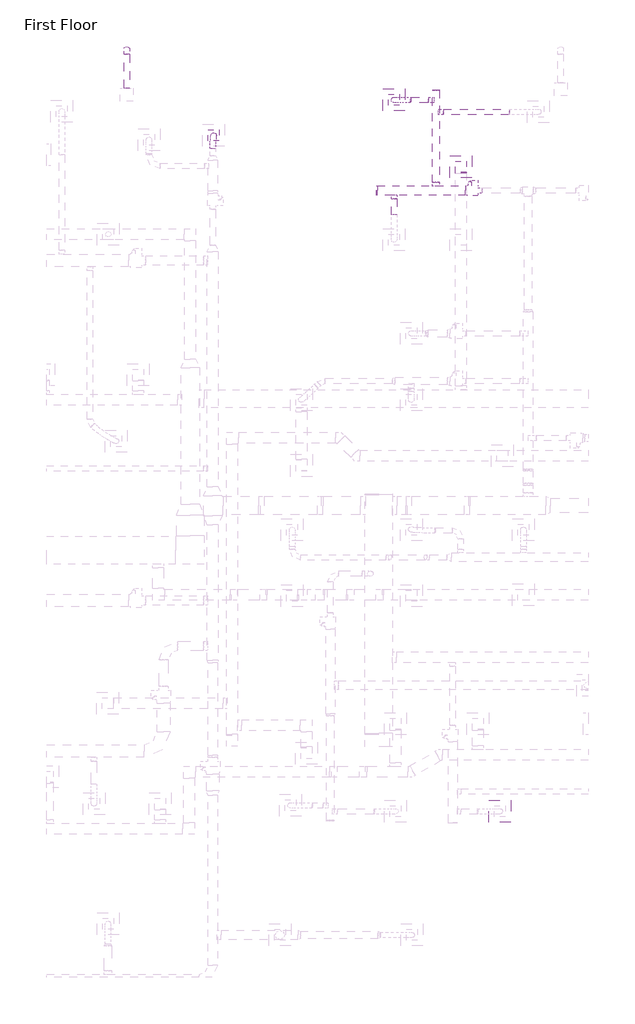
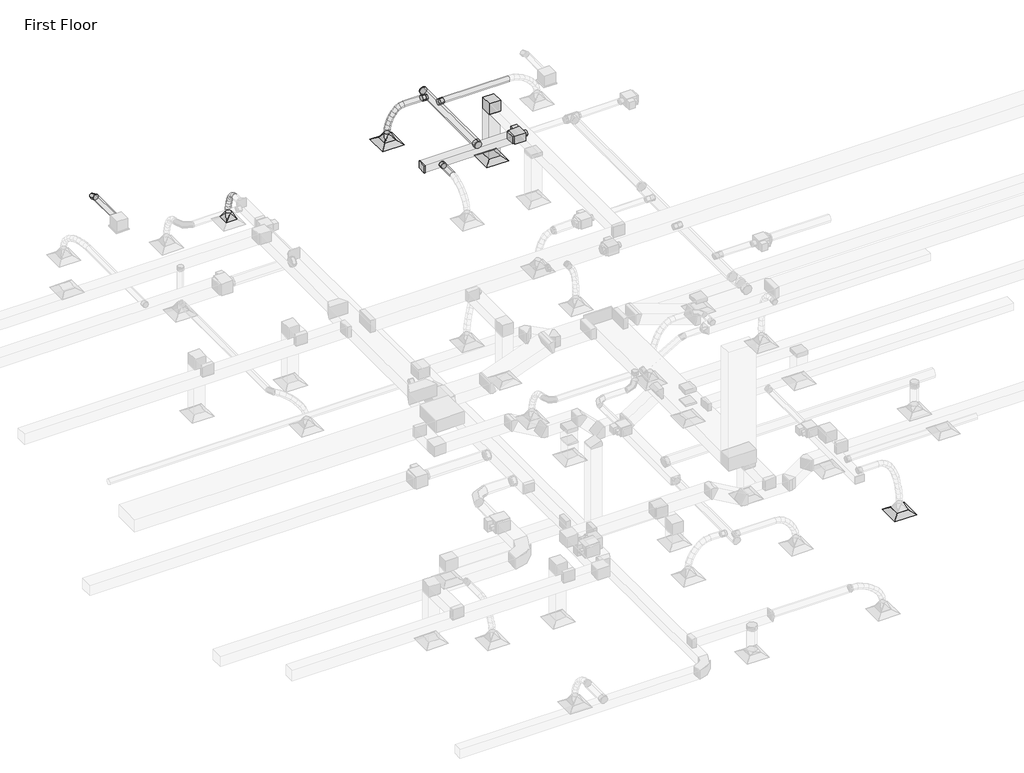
# One storey, part 46 of 61: 10 duct fittings, 9 duct segments, 3 air terminals, 1 proxy.
"""IFC4 building model written with IfcOpenShell, lengths in millimetres."""

from ifc_helpers import new_model, si_unit, point, frame, frame_2d, origin, place, context, project, spatial, polyline, circle_curve, ellipse_curve, trimmed, segment, composite_curve, outline, extrude, transform, mapped, element, save
from ifc_brep_helpers import plane_surface, cylinder_surface, advanced_brep
from components import m_exhaust_grill_er_600_x_600_face_300_x_300_connection_ff221211, m_vav_unit_single_duct_150_mm_ffdab17b, m_rectangular_elbow_mitered_standard_8eee5933, m_rectangular_endcap_standard_ecd4e432, m_rectangular_to_round_transition_angle_45_degree_8f201c83, m_round_elbow_1_5_d_fa134dda, m_round_endcap_standard_5afedfd2, m_round_takeoff_standard_2721f8a4, m_round_takeoff_standard_bf54a221, m_round_takeoff_standard_8efdd074, m_round_takeoff_standard_e1559ea3

model = new_model("IFC4")

# Units and contexts
model_context = context("Model", 3, world=origin())
ifc_project = project(units=[si_unit("LENGTHUNIT", "METRE", prefix="MILLI")], contexts=[model_context])

# Site, building, storey
site = spatial("IfcSite", under=ifc_project)
building = spatial("IfcBuilding", under=site)
storey = spatial("IfcBuildingStorey", under=building, Name="First Floor", Elevation=0.0)

# Air terminals
placement = place(None, origin())
m_exhaust_grill_er_600_x_600_face_300_x_300_connection_shape = m_exhaust_grill_er_600_x_600_face_300_x_300_connection_ff221211(model_context)
element("IfcAirTerminal", 1, ObjectType="M_Return Register : RR-600 x 600 Face 300 x 300 Connection", at=placement, inside=storey, context=model_context, shape_type="MappedRepresentation", body=[
    mapped(m_exhaust_grill_er_600_x_600_face_300_x_300_connection_shape, transform((-32756.4805906, 53537.642219, 2680.0), x_axis=(1.0, 0.0, 0.0), y_axis=(0.0, 1.0, 0.0), z_axis=(0.0, 0.0, 1.0))),
])
element("IfcAirTerminal", 2, ObjectType="M_Supply Diffuser : SD-600 x 600 Face 300 x 300 Connection", at=placement, inside=storey, context=model_context, shape_type="MappedRepresentation", body=[
    mapped(m_exhaust_grill_er_600_x_600_face_300_x_300_connection_shape, transform((-34574.8846187, 55356.0462471, 2680.0), x_axis=(1.0, 0.0, 0.0), y_axis=(0.0, 1.0, 0.0), z_axis=(0.0, 0.0, 1.0))),
])
element("IfcAirTerminal", 3, ObjectType="M_Supply Diffuser : SD-600 x 600 Face 300 x 300 Connection", at=placement, inside=storey, context=model_context, shape_type="MappedRepresentation", body=[
    mapped(m_exhaust_grill_er_600_x_600_face_300_x_300_connection_shape, transform((-31688.8067764, 35969.7483346, 2680.0), x_axis=(1.0, 0.0, 0.0), y_axis=(0.0, 1.0, 0.0), z_axis=(0.0, 0.0, 1.0))),
])

# Proxy
m_vav_unit_single_duct_150_mm_shape = m_vav_unit_single_duct_150_mm_ffdab17b(model_context)
element("IfcBuildingElementProxy", 4, Name="M_VAV Unit - Single Duct : 150 mm", ObjectType="M_VAV Unit - Single Duct : 150 mm", at=placement, inside=storey, context=model_context, shape_type="MappedRepresentation", body=[
    mapped(m_vav_unit_single_duct_150_mm_shape, transform((-32282.2775238, 52887.094047, 3500.05), x_axis=(-1.0000000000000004, 0.0, 0.0), y_axis=(0.0, -1.0000000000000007, 0.0), z_axis=(0.0, 0.0, 1.0000000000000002))),
])

# Duct fittings
m_rectangular_elbow_mitered_standard_shape = m_rectangular_elbow_mitered_standard_8eee5933(model_context)
element("IfcDuctFitting", 5, ObjectType="M_Rectangular Elbow - Mitered : Standard", at=placement, inside=storey, context=model_context, shape_type="MappedRepresentation", body=[
    mapped(m_rectangular_elbow_mitered_standard_shape, transform((-32756.4805906, 53537.642219, 4259.5), x_axis=(0.0, 0.0, 1.0), y_axis=(0.0, -1.0, 0.0), z_axis=(1.0, 0.0, 0.0))),
])
m_rectangular_endcap_standard_shape = m_rectangular_endcap_standard_ecd4e432(model_context)
element("IfcDuctFitting", 6, ObjectType="M_Rectangular Endcap : Standard", at=placement, inside=storey, context=model_context, shape_type="MappedRepresentation", body=[
    mapped(m_rectangular_endcap_standard_shape, transform((-35025.0775238, 52887.094047, 3619.1), x_axis=(-1.0, 0.0, 0.0), y_axis=(0.0, -1.0, 0.0), z_axis=(0.0, 0.0, 1.0))),
])
m_rectangular_to_round_transition_angle_45_degree_shape = m_rectangular_to_round_transition_angle_45_degree_8f201c83(model_context)
element("IfcDuctFitting", 7, ObjectType="M_Rectangular to Round Transition - Angle : 45 Degree", at=placement, inside=storey, context=model_context, shape_type="MappedRepresentation", body=[
    mapped(m_rectangular_to_round_transition_angle_45_degree_shape, transform((-34574.8846187, 55356.0462471, 2781.6), x_axis=(0.0, 0.0, 1.0), y_axis=(1.0, 0.0, 0.0), z_axis=(0.0, 1.0, 0.0))),
])
element("IfcDuctFitting", 8, ObjectType="M_Rectangular to Round Transition - Angle : 45 Degree", at=placement, inside=storey, context=model_context, shape_type="MappedRepresentation", body=[
    mapped(m_rectangular_to_round_transition_angle_45_degree_shape, transform((-39494.4029454, 54390.0357448, 2781.6), x_axis=(0.0, 0.0, 1.0), y_axis=(1.0, 0.0, 0.0), z_axis=(0.0, 1.0, 0.0))),
])
m_round_elbow_1_5_d_shape = m_round_elbow_1_5_d_fa134dda(model_context)
element("IfcDuctFitting", 9, ObjectType="M_Round Elbow : 1.5 D", at=placement, inside=storey, context=model_context, shape_type="MappedRepresentation", body=[
    mapped(m_round_elbow_1_5_d_shape, transform((-41867.0563016, 56690.1436321, 2879.6), x_axis=(0.0, 1.0, 0.0), y_axis=(0.0, 0.0, -1.0), z_axis=(-1.0, 0.0, 0.0))),
])
m_round_endcap_standard_shape = m_round_endcap_standard_5afedfd2(model_context)
element("IfcDuctFitting", 10, ObjectType="M_Round Endcap : Standard", at=placement, inside=storey, context=model_context, shape_type="MappedRepresentation", body=[
    mapped(m_round_endcap_standard_shape, transform((-33432.0242908, 55612.094047, 3619.1), x_axis=(0.0, 1.0, 0.0), y_axis=(-1.0, 0.0, 0.0), z_axis=(0.0, 0.0, 1.0))),
])
m_round_takeoff_standard_shape = m_round_takeoff_standard_2721f8a4(model_context)
element("IfcDuctFitting", 11, ObjectType="M_Round Takeoff : Standard", at=placement, inside=storey, context=model_context, shape_type="MappedRepresentation", body=[
    mapped(m_round_takeoff_standard_shape, transform((-34574.8846187, 52762.094047, 3619.1), x_axis=(0.0, -1.0, 0.0), y_axis=(-1.0, 0.0, 0.0), z_axis=(0.0, 0.0, -1.0))),
])
m_round_takeoff_standard_2_shape = m_round_takeoff_standard_bf54a221(model_context)
element("IfcDuctFitting", 12, ObjectType="M_Round Takeoff : Standard", at=placement, inside=storey, context=model_context, shape_type="MappedRepresentation", body=[
    mapped(m_round_takeoff_standard_2_shape, transform((-33532.0242908, 55356.0462471, 3619.1), x_axis=(-1.0, 0.0, 0.0), y_axis=(0.0, 1.0, 0.0), z_axis=(0.0, 0.0, -1.0))),
])
m_round_takeoff_standard_3_shape = m_round_takeoff_standard_8efdd074(model_context)
element("IfcDuctFitting", 13, ObjectType="M_Round Takeoff : Standard", at=placement, inside=storey, context=model_context, shape_type="MappedRepresentation", body=[
    mapped(m_round_takeoff_standard_3_shape, transform((-33432.0242908, 53012.094047, 3619.1), x_axis=(0.0, 1.0, 0.0), y_axis=(1.0, 0.0, 0.0), z_axis=(0.0, 0.0, -1.0))),
])
m_round_takeoff_standard_4_shape = m_round_takeoff_standard_e1559ea3(model_context)
element("IfcDuctFitting", 14, ObjectType="M_Round Takeoff : Standard", at=placement, inside=storey, context=model_context, shape_type="MappedRepresentation", body=[
    mapped(m_round_takeoff_standard_4_shape, transform((-33332.0242908, 55029.321854, 3619.1), x_axis=(1.0, 0.0, 0.0), y_axis=(0.0, -1.0, 0.0), z_axis=(0.0, 0.0, -1.0))),
])

# Duct segments
element("IfcDuctSegment", 15, ObjectType="Flex - Round", at=placement, inside=storey, context=model_context, shape_type="AdvancedBrep", body=[
    advanced_brep(
    [(-34132.0242908, 55281.0462471, 3619.1), (-34118.5013221, 55356.0462471, 3545.329211), (-34132.0242908, 55431.0462471, 3619.1), (-34145.5472595, 55356.0462471, 3692.870789), (-34226.8362322, 55281.0462471, 3601.7199647), (-34201.0413554, 55356.0462471, 3530.1987467), (-34226.8362322, 55431.0462471, 3601.7199647), (-34252.631109, 55356.0462471, 3673.2411827), (-34574.8846187, 55281.0462471, 2962.6660172), (-34649.6523526, 55356.0462471, 2968.5639802), (-34574.8846187, 55431.0462471, 2962.6660172), (-34500.1168848, 55356.0462471, 2956.7680542), (-34312.5755159, 55281.0462471, 3553.6502898), (-34267.5192064, 55356.0462471, 3492.9279817), (-34312.5755159, 55431.0462471, 3553.6502898), (-34357.6318253, 55356.0462471, 3614.3725979), (-34388.1421277, 55281.0462471, 3480.9966219), (-34330.9923187, 55356.0462471, 3431.9016328), (-34388.1421277, 55431.0462471, 3480.9966219), (-34445.2919367, 55356.0462471, 3530.091611), (-34452.4360537, 55281.0462471, 3389.8646076), (-34387.9155305, 55356.0462471, 3351.2170756), (-34452.4360537, 55431.0462471, 3389.8646076), (-34516.9565769, 55356.0462471, 3428.5121395), (-34504.3572798, 55281.0462471, 3286.3598933), (-34435.1630913, 55356.0462471, 3257.0292906), (-34504.3572798, 55431.0462471, 3286.3598933), (-34573.5514683, 55356.0462471, 3315.6904961), (-34542.8057921, 55281.0462471, 3176.5881258), (-34470.4949337, 55356.0462471, 3156.1557182), (-34542.8057921, 55431.0462471, 3176.5881258), (-34615.1166505, 55356.0462471, 3197.0205335), (-34566.6815764, 55281.0462471, 3066.6549516), (-34492.3129827, 55356.0462471, 3055.6971383), (-34566.6815764, 55431.0462471, 3066.6549516), (-34641.05017, 55356.0462471, 3077.6127648)],
    [
        (0, 1, circle_curve(frame((-34132.0242908, 55356.0462471, 3619.1), z_axis=(0.983610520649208, 0.0, 0.18030624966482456), x_axis=(0.0, -1.0, 0.0)), 75.0)),
        (1, 2, circle_curve(frame((-34132.0242908, 55356.0462471, 3619.1), z_axis=(0.983610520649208, 0.0, 0.18030624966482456), x_axis=(0.0, -1.0, 0.0)), 75.0)),
        (2, 3, circle_curve(frame((-34132.0242908, 55356.0462471, 3619.1), z_axis=(0.983610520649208, 0.0, 0.18030624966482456), x_axis=(0.0, -1.0, 0.0)), 75.0)),
        (3, 0, circle_curve(frame((-34132.0242908, 55356.0462471, 3619.1), z_axis=(0.983610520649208, 0.0, 0.18030624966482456), x_axis=(0.0, -1.0, 0.0)), 75.0)),
        (0, 4),
        (4, 5, ellipse_curve(frame((-34226.8362322, 55356.0462471, 3601.7199647), z_axis=(0.9406892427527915, 0.0, 0.33926943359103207), x_axis=(0.33926943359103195, 0.0, -0.9406892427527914)), 76.0306537, 75.0)),
        (5, 1),
        (5, 6, ellipse_curve(frame((-34226.8362322, 55356.0462471, 3601.7199647), z_axis=(0.9406892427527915, 0.0, 0.33926943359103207), x_axis=(0.33926943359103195, 0.0, -0.9406892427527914)), 76.0306537, 75.0)),
        (6, 2),
        (6, 7, ellipse_curve(frame((-34226.8362322, 55356.0462471, 3601.7199647), z_axis=(0.9406892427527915, 0.0, 0.33926943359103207), x_axis=(0.33926943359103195, 0.0, -0.9406892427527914)), 76.0306537, 75.0)),
        (7, 3),
        (7, 4, ellipse_curve(frame((-34226.8362322, 55356.0462471, 3601.7199647), z_axis=(0.9406892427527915, 0.0, 0.33926943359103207), x_axis=(0.33926943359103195, 0.0, -0.9406892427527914)), 76.0306537, 75.0)),
        (8, 9, circle_curve(frame((-34574.8846187, 55356.0462471, 2962.6660172), z_axis=(-0.07863950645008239, 0.0, -0.9969031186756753), x_axis=(0.0, -1.0, 0.0)), 75.0)),
        (9, 10, circle_curve(frame((-34574.8846187, 55356.0462471, 2962.6660172), z_axis=(-0.07863950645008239, 0.0, -0.9969031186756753), x_axis=(0.0, -1.0, 0.0)), 75.0)),
        (10, 11, circle_curve(frame((-34574.8846187, 55356.0462471, 2962.6660172), z_axis=(-0.07863950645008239, 0.0, -0.9969031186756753), x_axis=(0.0, -1.0, 0.0)), 75.0)),
        (11, 8, circle_curve(frame((-34574.8846187, 55356.0462471, 2962.6660172), z_axis=(-0.07863950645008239, 0.0, -0.9969031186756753), x_axis=(0.0, -1.0, 0.0)), 75.0)),
        (4, 12),
        (12, 13, ellipse_curve(frame((-34312.5755159, 55356.0462471, 3553.6502898), z_axis=(0.8030709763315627, 0.0, 0.595883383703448), x_axis=(0.5958833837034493, 0.0, -0.8030709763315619)), 75.6126293, 75.0)),
        (13, 5),
        (13, 14, ellipse_curve(frame((-34312.5755159, 55356.0462471, 3553.6502898), z_axis=(0.8030709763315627, 0.0, 0.595883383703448), x_axis=(0.5958833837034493, 0.0, -0.8030709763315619)), 75.6126293, 75.0)),
        (14, 6),
        (14, 15, ellipse_curve(frame((-34312.5755159, 55356.0462471, 3553.6502898), z_axis=(0.8030709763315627, 0.0, 0.595883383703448), x_axis=(0.5958833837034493, 0.0, -0.8030709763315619)), 75.6126293, 75.0)),
        (15, 7),
        (15, 12, ellipse_curve(frame((-34312.5755159, 55356.0462471, 3553.6502898), z_axis=(0.8030709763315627, 0.0, 0.595883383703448), x_axis=(0.5958833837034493, 0.0, -0.8030709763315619)), 75.6126293, 75.0)),
        (12, 16),
        (16, 17, ellipse_curve(frame((-34388.1421277, 55356.0462471, 3480.9966219), z_axis=(0.6516283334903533, 0.0, 0.758538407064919), x_axis=(0.7585384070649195, 0.0, -0.6516283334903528)), 75.342011, 75.0)),
        (17, 13),
        (17, 18, ellipse_curve(frame((-34388.1421277, 55356.0462471, 3480.9966219), z_axis=(0.6516283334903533, 0.0, 0.758538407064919), x_axis=(0.7585384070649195, 0.0, -0.6516283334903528)), 75.342011, 75.0)),
        (18, 14),
        (18, 19, ellipse_curve(frame((-34388.1421277, 55356.0462471, 3480.9966219), z_axis=(0.6516283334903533, 0.0, 0.758538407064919), x_axis=(0.7585384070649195, 0.0, -0.6516283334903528)), 75.342011, 75.0)),
        (19, 15),
        (19, 16, ellipse_curve(frame((-34388.1421277, 55356.0462471, 3480.9966219), z_axis=(0.6516283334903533, 0.0, 0.758538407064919), x_axis=(0.7585384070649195, 0.0, -0.6516283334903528)), 75.342011, 75.0)),
        (16, 20),
        (20, 21, ellipse_curve(frame((-34452.4360537, 55356.0462471, 3389.8646076), z_axis=(0.5138622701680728, 0.0, 0.8578726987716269), x_axis=(0.8578726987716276, 0.0, -0.5138622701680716)), 75.2099039, 75.0)),
        (21, 17),
        (21, 22, ellipse_curve(frame((-34452.4360537, 55356.0462471, 3389.8646076), z_axis=(0.5138622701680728, 0.0, 0.8578726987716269), x_axis=(0.8578726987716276, 0.0, -0.5138622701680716)), 75.2099039, 75.0)),
        (22, 18),
        (22, 23, ellipse_curve(frame((-34452.4360537, 55356.0462471, 3389.8646076), z_axis=(0.5138622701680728, 0.0, 0.8578726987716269), x_axis=(0.8578726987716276, 0.0, -0.5138622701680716)), 75.2099039, 75.0)),
        (23, 19),
        (23, 20, ellipse_curve(frame((-34452.4360537, 55356.0462471, 3389.8646076), z_axis=(0.5138622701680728, 0.0, 0.8578726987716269), x_axis=(0.8578726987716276, 0.0, -0.5138622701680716)), 75.2099039, 75.0)),
        (20, 24),
        (24, 25, ellipse_curve(frame((-34504.3572798, 55356.0462471, 3286.3598933), z_axis=(0.3902734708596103, 0.0, 0.9206989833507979), x_axis=(0.9206989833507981, 0.0, -0.3902734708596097)), 75.1539751, 75.0)),
        (25, 21),
        (25, 26, ellipse_curve(frame((-34504.3572798, 55356.0462471, 3286.3598933), z_axis=(0.3902734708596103, 0.0, 0.9206989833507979), x_axis=(0.9206989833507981, 0.0, -0.3902734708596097)), 75.1539751, 75.0)),
        (26, 22),
        (26, 27, ellipse_curve(frame((-34504.3572798, 55356.0462471, 3286.3598933), z_axis=(0.3902734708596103, 0.0, 0.9206989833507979), x_axis=(0.9206989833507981, 0.0, -0.3902734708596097)), 75.1539751, 75.0)),
        (27, 23),
        (27, 24, ellipse_curve(frame((-34504.3572798, 55356.0462471, 3286.3598933), z_axis=(0.3902734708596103, 0.0, 0.9206989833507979), x_axis=(0.9206989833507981, 0.0, -0.3902734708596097)), 75.1539751, 75.0)),
        (24, 28),
        (28, 29, ellipse_curve(frame((-34542.8057921, 55356.0462471, 3176.5881258), z_axis=(0.27191670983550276, 0.0, 0.9623207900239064), x_axis=(0.9623207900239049, 0.0, -0.2719167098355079)), 75.1421554, 75.0)),
        (29, 25),
        (29, 30, ellipse_curve(frame((-34542.8057921, 55356.0462471, 3176.5881258), z_axis=(0.27191670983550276, 0.0, 0.9623207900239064), x_axis=(0.9623207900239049, 0.0, -0.2719167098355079)), 75.1421554, 75.0)),
        (30, 26),
        (30, 31, ellipse_curve(frame((-34542.8057921, 55356.0462471, 3176.5881258), z_axis=(0.27191670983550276, 0.0, 0.9623207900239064), x_axis=(0.9623207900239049, 0.0, -0.2719167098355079)), 75.1421554, 75.0)),
        (31, 27),
        (31, 28, ellipse_curve(frame((-34542.8057921, 55356.0462471, 3176.5881258), z_axis=(0.27191670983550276, 0.0, 0.9623207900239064), x_axis=(0.9623207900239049, 0.0, -0.2719167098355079)), 75.1421554, 75.0)),
        (28, 32),
        (32, 33, ellipse_curve(frame((-34566.6815764, 55356.0462471, 3066.6549516), z_axis=(0.145770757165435, 0.0, 0.9893183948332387), x_axis=(0.9893183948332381, 1.1852443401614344e-12, -0.14577075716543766)), 75.1715465, 75.0)),
        (33, 29),
        (33, 34, ellipse_curve(frame((-34566.6815764, 55356.0462471, 3066.6549516), z_axis=(0.145770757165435, 0.0, 0.9893183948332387), x_axis=(0.9893183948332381, 1.1852443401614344e-12, -0.14577075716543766)), 75.1715465, 75.0)),
        (34, 30),
        (34, 35, ellipse_curve(frame((-34566.6815764, 55356.0462471, 3066.6549516), z_axis=(0.145770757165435, 0.0, 0.9893183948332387), x_axis=(0.9893183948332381, 1.1852443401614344e-12, -0.14577075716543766)), 75.1715465, 75.0)),
        (35, 31),
        (35, 32, ellipse_curve(frame((-34566.6815764, 55356.0462471, 3066.6549516), z_axis=(0.145770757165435, 0.0, 0.9893183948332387), x_axis=(0.9893183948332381, 1.1852443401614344e-12, -0.14577075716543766)), 75.1715465, 75.0)),
        (32, 8),
        (11, 33),
        (10, 34),
        (9, 35),
    ],
    [
        plane_surface(frame((-34132.0242908, 55431.0462471, 3619.1), z_axis=(0.9836105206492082, 0.0, 0.18030624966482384), x_axis=(0.18030624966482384, 0.0, -0.9836105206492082))),
        cylinder_surface(frame((-34132.0242908, 55356.0462471, 3619.1), z_axis=(0.983610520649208, 0.0, 0.18030624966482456), x_axis=(0.0, -1.0, 0.0)), 75.0),
        plane_surface(frame((-34574.8846187, 55431.0462471, 2962.6660172), z_axis=(-0.07863950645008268, 0.0, -0.9969031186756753), x_axis=(0.9969031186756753, 0.0, -0.07863950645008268))),
        cylinder_surface(frame((-34226.8362322, 55356.0462471, 3601.7199647), z_axis=(0.8722644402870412, 0.0, 0.4890345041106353), x_axis=(0.0, -1.0, 0.0)), 75.0),
        cylinder_surface(frame((-34312.5755159, 55356.0462471, 3553.6502898), z_axis=(0.7208642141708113, 0.0, 0.6930763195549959), x_axis=(0.0, -1.0, 0.0)), 75.0),
        cylinder_surface(frame((-34388.1421277, 55356.0462471, 3480.9966219), z_axis=(0.5764763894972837, 0.0, 0.8171138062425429), x_axis=(0.0, -1.0, 0.0)), 75.0),
        cylinder_surface(frame((-34452.4360537, 55356.0462471, 3389.8646076), z_axis=(0.44837986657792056, 0.0, 0.8938431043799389), x_axis=(0.0, -1.0, 0.0)), 75.0),
        cylinder_surface(frame((-34504.3572798, 55356.0462471, 3286.3598933), z_axis=(0.3305678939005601, 0.0, 0.9437822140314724), x_axis=(0.0, -1.0, 0.0)), 75.0),
        cylinder_surface(frame((-34542.8057921, 55356.0462471, 3176.5881258), z_axis=(0.2122366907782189, 0.0, 0.9772182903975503), x_axis=(0.0, -1.0, 0.0)), 75.0),
        cylinder_surface(frame((-34566.6815764, 55356.0462471, 3066.6549516), z_axis=(0.07863950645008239, 0.0, 0.9969031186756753), x_axis=(0.0, -1.0, 0.0)), 75.0),
    ],
    [
        (0, [[1, 2, 3, 4]]),
        (1, [[-1, 5, 6, 7]]),
        (1, [[-2, -7, 8, 9]]),
        (1, [[-3, -9, 10, 11]]),
        (1, [[-4, -11, 12, -5]]),
        (2, [[13, 14, 15, 16]]),
        (3, [[-6, 17, 18, 19]]),
        (3, [[-8, -19, 20, 21]]),
        (3, [[-10, -21, 22, 23]]),
        (3, [[-12, -23, 24, -17]]),
        (4, [[-18, 25, 26, 27]]),
        (4, [[-20, -27, 28, 29]]),
        (4, [[-22, -29, 30, 31]]),
        (4, [[-24, -31, 32, -25]]),
        (5, [[-26, 33, 34, 35]]),
        (5, [[-28, -35, 36, 37]]),
        (5, [[-30, -37, 38, 39]]),
        (5, [[-32, -39, 40, -33]]),
        (6, [[-34, 41, 42, 43]]),
        (6, [[-36, -43, 44, 45]]),
        (6, [[-38, -45, 46, 47]]),
        (6, [[-40, -47, 48, -41]]),
        (7, [[-42, 49, 50, 51]]),
        (7, [[-44, -51, 52, 53]]),
        (7, [[-46, -53, 54, 55]]),
        (7, [[-48, -55, 56, -49]]),
        (8, [[-50, 57, 58, 59]]),
        (8, [[-52, -59, 60, 61]]),
        (8, [[-54, -61, 62, 63]]),
        (8, [[-56, -63, 64, -57]]),
        (9, [[-58, 65, -16, 66]]),
        (9, [[-60, -66, -15, 67]]),
        (9, [[-62, -67, -14, 68]]),
        (9, [[-64, -68, -13, -65]]),
    ],
),
])
element("IfcDuctSegment", 16, ObjectType="Flex - Round", at=placement, inside=storey, context=model_context, shape_type="AdvancedBrep", body=[
    advanced_brep(
    [(-39591.764116, 54037.7635475, 3619.1), (-39516.9384247, 54021.650829, 3545.6731913), (-39441.7733644, 54036.0978866, 3619.1), (-39516.5990556, 54052.2106051, 3692.5268087), (-39590.7948874, 54125.0414164, 3600.93551), (-39516.137711, 54093.7541363, 3530.6668694), (-39440.8205325, 54121.8992491, 3601.2428043), (-39515.4777089, 54153.1865292, 3671.5114449), (-39569.3376667, 54393.1119838, 2962.0965517), (-39491.3591129, 54464.879041, 2966.4364416), (-39419.468224, 54386.9595059, 2963.2354827), (-39497.4467778, 54315.1924486, 2958.8955928), (-39588.2258117, 54199.5688535, 3550.6398474), (-39514.3399057, 54145.9074541, 3495.4706278), (-39438.3223578, 54194.3698876, 3552.3351949), (-39512.2082638, 54248.0312869, 3607.5044145), (-39584.61636, 54260.9567607, 3475.5229104), (-39511.448564, 54195.0820745, 3435.2984044), (-39434.7677658, 54254.8247674, 3478.359951), (-39507.9355618, 54320.6994535, 3518.584457), (-39580.4971512, 54309.9178279, 3382.385021), (-39507.8471145, 54237.8890346, 3353.867379), (-39430.6745344, 54303.4770658, 3385.809428), (-39503.324571, 54375.5058591, 3414.32707), (-39576.3898785, 54347.0822573, 3277.8622534), (-39504.0897714, 54271.8871458, 3258.2496947), (-39426.5693667, 54340.6224481, 3281.3402292), (-39498.8694738, 54415.8175596, 3300.9527879), (-39572.8155762, 54372.9923613, 3168.5968144), (-39500.7483817, 54296.1088676, 3156.1043285), (-39422.9796254, 54366.644469, 3171.6028255), (-39495.04682, 54443.5279628, 3184.0953114), (-39570.2950823, 54388.1535273, 3061.295314), (-39498.374935, 54310.3855213, 3055.0628677), (-39420.4328689, 54381.9636087, 3063.1832839), (-39492.3530162, 54459.7316147, 3069.4157302)],
    [
        (0, 1, circle_curve(frame((-39516.7687402, 54036.930717, 3619.1), z_axis=(-0.010871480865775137, -0.9789637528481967, 0.2037444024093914), x_axis=(-0.9999383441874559, 0.01110440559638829, 0.0)), 75.0)),
        (1, 2, circle_curve(frame((-39516.7687402, 54036.930717, 3619.1), z_axis=(-0.010871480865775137, -0.9789637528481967, 0.2037444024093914), x_axis=(-0.9999383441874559, 0.01110440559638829, 0.0)), 75.0)),
        (2, 3, circle_curve(frame((-39516.7687402, 54036.930717, 3619.1), z_axis=(-0.010871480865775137, -0.9789637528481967, 0.2037444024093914), x_axis=(-0.9999383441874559, 0.01110440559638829, 0.0)), 75.0)),
        (3, 0, circle_curve(frame((-39516.7687402, 54036.930717, 3619.1), z_axis=(-0.010871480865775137, -0.9789637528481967, 0.2037444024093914), x_axis=(-0.9999383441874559, 0.01110440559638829, 0.0)), 75.0)),
        (0, 4),
        (4, 5, ellipse_curve(frame((-39515.8077099, 54123.4703328, 3601.0891572), z_axis=(-0.02009516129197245, -0.9211125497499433, 0.3887773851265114), x_axis=(0.04578991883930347, -0.3892957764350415, -0.9199739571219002)), 76.4397053, 75.0)),
        (5, 1),
        (5, 6, ellipse_curve(frame((-39515.8077099, 54123.4703328, 3601.0891572), z_axis=(-0.02009516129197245, -0.9211125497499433, 0.3887773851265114), x_axis=(0.04578991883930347, -0.3892957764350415, -0.9199739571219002)), 76.4397053, 75.0)),
        (6, 2),
        (6, 7, ellipse_curve(frame((-39515.8077099, 54123.4703328, 3601.0891572), z_axis=(-0.02009516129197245, -0.9211125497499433, 0.3887773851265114), x_axis=(0.04578991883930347, -0.3892957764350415, -0.9199739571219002)), 76.4397053, 75.0)),
        (7, 3),
        (7, 4, ellipse_curve(frame((-39515.8077099, 54123.4703328, 3601.0891572), z_axis=(-0.02009516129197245, -0.9211125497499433, 0.3887773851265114), x_axis=(0.04578991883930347, -0.3892957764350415, -0.9199739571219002)), 76.4397053, 75.0)),
        (8, 9, circle_curve(frame((-39494.4029454, 54390.0357448, 2962.6660172), z_axis=(0.009639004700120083, 0.0499204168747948, -0.9987066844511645), x_axis=(-0.9991296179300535, 0.04101651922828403, -0.007592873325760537)), 75.0)),
        (9, 10, circle_curve(frame((-39494.4029454, 54390.0357448, 2962.6660172), z_axis=(0.009639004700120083, 0.0499204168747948, -0.9987066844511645), x_axis=(-0.9991296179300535, 0.04101651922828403, -0.007592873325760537)), 75.0)),
        (10, 11, circle_curve(frame((-39494.4029454, 54390.0357448, 2962.6660172), z_axis=(0.009639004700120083, 0.0499204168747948, -0.9987066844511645), x_axis=(-0.9991296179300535, 0.04101651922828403, -0.007592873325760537)), 75.0)),
        (11, 8, circle_curve(frame((-39494.4029454, 54390.0357448, 2962.6660172), z_axis=(0.009639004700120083, 0.0499204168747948, -0.9987066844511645), x_axis=(-0.9991296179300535, 0.04101651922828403, -0.007592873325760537)), 75.0)),
        (4, 12),
        (12, 13, ellipse_curve(frame((-39513.2740847, 54196.9693705, 3551.4875212), z_axis=(-0.03322485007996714, -0.7383138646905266, 0.6736384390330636), x_axis=(0.029628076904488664, -0.6744419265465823, -0.7377331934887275)), 75.8062323, 75.0)),
        (13, 5),
        (13, 14, ellipse_curve(frame((-39513.2740847, 54196.9693705, 3551.4875212), z_axis=(-0.03322485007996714, -0.7383138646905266, 0.6736384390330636), x_axis=(0.029628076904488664, -0.6744419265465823, -0.7377331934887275)), 75.8062323, 75.0)),
        (14, 6),
        (14, 15, ellipse_curve(frame((-39513.2740847, 54196.9693705, 3551.4875212), z_axis=(-0.03322485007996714, -0.7383138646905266, 0.6736384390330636), x_axis=(0.029628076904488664, -0.6744419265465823, -0.7377331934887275)), 75.8062323, 75.0)),
        (15, 7),
        (15, 12, ellipse_curve(frame((-39513.2740847, 54196.9693705, 3551.4875212), z_axis=(-0.03322485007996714, -0.7383138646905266, 0.6736384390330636), x_axis=(0.029628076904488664, -0.6744419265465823, -0.7377331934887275)), 75.8062323, 75.0)),
        (12, 16),
        (16, 17, ellipse_curve(frame((-39509.6920629, 54257.890764, 3476.9414307), z_axis=(-0.03834285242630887, -0.5514392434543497, 0.8333334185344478), x_axis=(0.009648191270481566, -0.8341120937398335, -0.5515105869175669)), 75.3805097, 75.0)),
        (17, 13),
        (17, 18, ellipse_curve(frame((-39509.6920629, 54257.890764, 3476.9414307), z_axis=(-0.03834285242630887, -0.5514392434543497, 0.8333334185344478), x_axis=(0.009648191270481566, -0.8341120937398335, -0.5515105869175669)), 75.3805097, 75.0)),
        (18, 14),
        (18, 19, ellipse_curve(frame((-39509.6920629, 54257.890764, 3476.9414307), z_axis=(-0.03834285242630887, -0.5514392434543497, 0.8333334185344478), x_axis=(0.009648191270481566, -0.8341120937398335, -0.5515105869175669)), 75.3805097, 75.0)),
        (19, 15),
        (19, 16, ellipse_curve(frame((-39509.6920629, 54257.890764, 3476.9414307), z_axis=(-0.03834285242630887, -0.5514392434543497, 0.8333334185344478), x_axis=(0.009648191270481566, -0.8341120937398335, -0.5515105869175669)), 75.3805097, 75.0)),
        (16, 20),
        (20, 21, ellipse_curve(frame((-39505.5858428, 54306.6974468, 3384.0972245), z_axis=(-0.0381549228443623, -0.4008831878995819, 0.9153342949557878), x_axis=(-0.014900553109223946, -0.9156712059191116, -0.40165185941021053)), 75.1901664, 75.0)),
        (21, 17),
        (21, 22, ellipse_curve(frame((-39505.5858428, 54306.6974468, 3384.0972245), z_axis=(-0.0381549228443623, -0.4008831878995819, 0.9153342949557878), x_axis=(-0.014900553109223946, -0.9156712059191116, -0.40165185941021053)), 75.1901664, 75.0)),
        (22, 18),
        (22, 23, ellipse_curve(frame((-39505.5858428, 54306.6974468, 3384.0972245), z_axis=(-0.0381549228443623, -0.4008831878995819, 0.9153342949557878), x_axis=(-0.014900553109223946, -0.9156712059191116, -0.40165185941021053)), 75.1901664, 75.0)),
        (23, 19),
        (23, 20, ellipse_curve(frame((-39505.5858428, 54306.6974468, 3384.0972245), z_axis=(-0.0381549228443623, -0.4008831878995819, 0.9153342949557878), x_axis=(-0.014900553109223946, -0.9156712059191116, -0.40165185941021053)), 75.1901664, 75.0)),
        (20, 24),
        (24, 25, ellipse_curve(frame((-39501.4796226, 54343.8523527, 3279.6012413), z_axis=(-0.03445736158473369, -0.2831198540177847, 0.958465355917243), x_axis=(-0.047666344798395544, -0.9574778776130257, -0.284541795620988)), 75.111219, 75.0)),
        (25, 21),
        (25, 26, ellipse_curve(frame((-39501.4796226, 54343.8523527, 3279.6012413), z_axis=(-0.03445736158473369, -0.2831198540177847, 0.958465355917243), x_axis=(-0.047666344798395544, -0.9574778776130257, -0.284541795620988)), 75.111219, 75.0)),
        (26, 22),
        (26, 27, ellipse_curve(frame((-39501.4796226, 54343.8523527, 3279.6012413), z_axis=(-0.03445736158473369, -0.2831198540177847, 0.958465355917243), x_axis=(-0.047666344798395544, -0.9574778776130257, -0.284541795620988)), 75.111219, 75.0)),
        (27, 23),
        (27, 24, ellipse_curve(frame((-39501.4796226, 54343.8523527, 3279.6012413), z_axis=(-0.03445736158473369, -0.2831198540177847, 0.958465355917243), x_axis=(-0.047666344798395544, -0.9574778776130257, -0.284541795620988)), 75.111219, 75.0)),
        (24, 28),
        (28, 29, ellipse_curve(frame((-39497.8976008, 54369.8184152, 3170.0998199), z_axis=(-0.02756260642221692, -0.18544083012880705, 0.9822688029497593), x_axis=(-0.09225932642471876, -0.9779760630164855, -0.18721922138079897)), 75.0808506, 75.0)),
        (29, 25),
        (29, 30, ellipse_curve(frame((-39497.8976008, 54369.8184152, 3170.0998199), z_axis=(-0.02756260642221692, -0.18544083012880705, 0.9822688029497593), x_axis=(-0.09225932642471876, -0.9779760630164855, -0.18721922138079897)), 75.0808506, 75.0)),
        (30, 26),
        (30, 31, ellipse_curve(frame((-39497.8976008, 54369.8184152, 3170.0998199), z_axis=(-0.02756260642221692, -0.18544083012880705, 0.9822688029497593), x_axis=(-0.09225932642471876, -0.9779760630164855, -0.18721922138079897)), 75.0808506, 75.0)),
        (31, 27),
        (31, 28, ellipse_curve(frame((-39497.8976008, 54369.8184152, 3170.0998199), z_axis=(-0.02756260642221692, -0.18544083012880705, 0.9822688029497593), x_axis=(-0.09225932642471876, -0.9779760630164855, -0.18721922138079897)), 75.0808506, 75.0)),
        (28, 32),
        (32, 33, ellipse_curve(frame((-39495.3639756, 54385.058568, 3062.2392989), z_axis=(-0.016462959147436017, -0.09499321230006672, 0.9953417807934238), x_axis=(-0.14894915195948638, -0.9841359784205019, -0.09638737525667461)), 75.0784362, 75.0)),
        (33, 29),
        (33, 34, ellipse_curve(frame((-39495.3639756, 54385.058568, 3062.2392989), z_axis=(-0.016462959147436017, -0.09499321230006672, 0.9953417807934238), x_axis=(-0.14894915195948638, -0.9841359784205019, -0.09638737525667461)), 75.0784362, 75.0)),
        (34, 30),
        (34, 35, ellipse_curve(frame((-39495.3639756, 54385.058568, 3062.2392989), z_axis=(-0.016462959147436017, -0.09499321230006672, 0.9953417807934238), x_axis=(-0.14894915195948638, -0.9841359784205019, -0.09638737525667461)), 75.0784362, 75.0)),
        (35, 31),
        (35, 32, ellipse_curve(frame((-39495.3639756, 54385.058568, 3062.2392989), z_axis=(-0.016462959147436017, -0.09499321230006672, 0.9953417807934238), x_axis=(-0.14894915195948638, -0.9841359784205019, -0.09638737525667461)), 75.0784362, 75.0)),
        (32, 8),
        (11, 33),
        (10, 34),
        (9, 35),
    ],
    [
        plane_surface(frame((-39516.7687402, 54052.2124503, 3692.5266207), z_axis=(-0.010871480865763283, -0.9789637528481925, 0.2037444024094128), x_axis=(0.9999409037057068, -0.01064341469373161, 0.0022151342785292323))),
        cylinder_surface(frame((-39516.7687402, 54036.930717, 3619.1), z_axis=(-0.010871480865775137, -0.9789637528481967, 0.2037444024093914), x_axis=(-0.9999383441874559, 0.01110440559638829, 0.0)), 75.0),
        plane_surface(frame((-39494.4029454, 54464.942226, 2966.4102224), z_axis=(0.009639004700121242, 0.04992041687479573, -0.9987066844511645), x_axis=(0.9999535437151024, -0.0004812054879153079, 0.009626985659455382))),
        cylinder_surface(frame((-39515.8077099, 54123.4703328, 3601.0891572), z_axis=(-0.02856187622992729, -0.8285639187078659, 0.559165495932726), x_axis=(-0.9995418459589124, 0.02927890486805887, -0.007670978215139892)), 75.0),
        cylinder_surface(frame((-39513.2740847, 54196.9693705, 3551.4875212), z_axis=(-0.03718110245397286, -0.6323592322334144, 0.773782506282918), x_axis=(-0.9991148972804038, 0.038766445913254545, -0.01632742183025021)), 75.0),
        cylinder_surface(frame((-39509.6920629, 54257.890764, 3476.9414307), z_axis=(-0.039117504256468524, -0.4649520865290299, 0.8844712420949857), x_axis=(-0.9988598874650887, 0.042433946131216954, -0.021869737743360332)), 75.0),
        cylinder_surface(frame((-39505.5858428, 54306.6974468, 3384.0972245), z_axis=(-0.036999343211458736, -0.33478651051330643, 0.941567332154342), x_axis=(-0.9987773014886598, 0.043301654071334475, -0.023850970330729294)), 75.0),
        cylinder_surface(frame((-39501.4796226, 54343.8523527, 3279.6012413), z_axis=(-0.0318133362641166, -0.2306147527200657, 0.9725249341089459), x_axis=(-0.9988258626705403, 0.0429026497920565, -0.02250019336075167)), 75.0),
        cylinder_surface(frame((-39497.8976008, 54369.8184152, 3170.0998199), z_axis=(-0.02325251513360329, -0.1398675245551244, 0.9898971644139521), x_axis=(-0.9989651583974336, 0.04196547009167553, -0.017536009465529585)), 75.0),
        cylinder_surface(frame((-39495.3639756, 54385.058568, 3062.2392989), z_axis=(-0.009639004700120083, -0.0499204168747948, 0.9987066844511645), x_axis=(-0.9991296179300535, 0.04101651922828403, -0.007592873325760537)), 75.0),
    ],
    [
        (0, [[1, 2, 3, 4]]),
        (1, [[-1, 5, 6, 7]]),
        (1, [[-2, -7, 8, 9]]),
        (1, [[-3, -9, 10, 11]]),
        (1, [[-4, -11, 12, -5]]),
        (2, [[13, 14, 15, 16]]),
        (3, [[-6, 17, 18, 19]]),
        (3, [[-8, -19, 20, 21]]),
        (3, [[-10, -21, 22, 23]]),
        (3, [[-12, -23, 24, -17]]),
        (4, [[-18, 25, 26, 27]]),
        (4, [[-20, -27, 28, 29]]),
        (4, [[-22, -29, 30, 31]]),
        (4, [[-24, -31, 32, -25]]),
        (5, [[-26, 33, 34, 35]]),
        (5, [[-28, -35, 36, 37]]),
        (5, [[-30, -37, 38, 39]]),
        (5, [[-32, -39, 40, -33]]),
        (6, [[-34, 41, 42, 43]]),
        (6, [[-36, -43, 44, 45]]),
        (6, [[-38, -45, 46, 47]]),
        (6, [[-40, -47, 48, -41]]),
        (7, [[-42, 49, 50, 51]]),
        (7, [[-44, -51, 52, 53]]),
        (7, [[-46, -53, 54, 55]]),
        (7, [[-48, -55, 56, -49]]),
        (8, [[-50, 57, 58, 59]]),
        (8, [[-52, -59, 60, 61]]),
        (8, [[-54, -61, 62, 63]]),
        (8, [[-56, -63, 64, -57]]),
        (9, [[-58, 65, -16, 66]]),
        (9, [[-60, -66, -15, 67]]),
        (9, [[-62, -67, -14, 68]]),
        (9, [[-64, -68, -13, -65]]),
    ],
),
])
element("IfcDuctSegment", 17, ObjectType="Mitered Elbows / Taps", at=placement, inside=storey, context=model_context, shape_type="SweptSolid", body=[
    extrude(outline(polyline([(-32606.4805906, 53387.642219), (-32906.4805906, 53387.642219), (-32906.4805906, 53687.642219), (-32606.4805906, 53687.642219), (-32606.4805906, 53387.642219)])), frame((0.0, 0.0, 2781.6), z_axis=(0.0, 0.0, 1.0), x_axis=(1.0, 0.0, 0.0)), (0.0, 0.0, 1.0), 1302.9),
])
element("IfcDuctSegment", 18, ObjectType="Radius Elbows / Tees", at=placement, inside=storey, context=model_context, shape_type="SweptSolid", body=[
    extrude(outline(polyline([(-32625.0775238, 53012.094047), (-32625.0775238, 52762.094047), (-35025.0775238, 52762.094047), (-35025.0775238, 53012.094047), (-32625.0775238, 53012.094047)])), frame((0.0, 0.0, 3519.1), z_axis=(0.0, 0.0, 1.0), x_axis=(1.0, 0.0, 0.0)), (0.0, 0.0, 1.0), 200.0),
])
element("IfcDuctSegment", 19, ObjectType="Taps", at=placement, inside=storey, context=model_context, shape_type="SweptSolid", body=[
    extrude(outline(composite_curve([segment(trimmed(circle_curve(frame_2d((2879.6, -41867.0563016)), 75.0), [point((2879.6, -41792.0563016))], [point((2954.6, -41867.0563016))], False, "CARTESIAN"), True, "CONTINUOUS"), segment(trimmed(circle_curve(frame_2d((2879.6, -41867.0563016)), 75.0), [point((2954.6, -41867.0563016))], [point((2879.6, -41942.0563016))], False, "CARTESIAN"), True, "CONTINUOUS"), segment(trimmed(circle_curve(frame_2d((2879.6, -41867.0563016)), 75.0), [point((2879.6, -41942.0563016))], [point((2804.6, -41867.0563016))], False, "CARTESIAN"), True, "CONTINUOUS"), segment(trimmed(circle_curve(frame_2d((2879.6, -41867.0563016)), 75.0), [point((2804.6, -41867.0563016))], [point((2879.6, -41792.0563016))], False, "CARTESIAN"), True, "CONTINUOUS")], self_intersect=False)), frame((0.0, 55670.1436321, 0.0), z_axis=(0.0, 1.0, 0.0), x_axis=(0.0, 0.0, 1.0)), (0.0, 0.0, 1.0), 926.8019485),
])
element("IfcDuctSegment", 20, ObjectType="Taps", at=placement, inside=storey, context=model_context, shape_type="SweptSolid", body=[
    extrude(outline(composite_curve([segment(trimmed(circle_curve(frame_2d((3619.1, -34574.8846187)), 75.0), [point((3619.1, -34649.8846187))], [point((3544.1, -34574.8846187))], False, "CARTESIAN"), True, "CONTINUOUS"), segment(trimmed(circle_curve(frame_2d((3619.1, -34574.8846187)), 75.0), [point((3544.1, -34574.8846187))], [point((3619.1, -34499.8846187))], False, "CARTESIAN"), True, "CONTINUOUS"), segment(trimmed(circle_curve(frame_2d((3619.1, -34574.8846187)), 75.0), [point((3619.1, -34499.8846187))], [point((3694.1, -34574.8846187))], False, "CARTESIAN"), True, "CONTINUOUS"), segment(trimmed(circle_curve(frame_2d((3619.1, -34574.8846187)), 75.0), [point((3694.1, -34574.8846187))], [point((3619.1, -34649.8846187))], False, "CARTESIAN"), True, "CONTINUOUS")], self_intersect=False)), frame((0.0, 52228.9907116, 0.0), z_axis=(0.0, 1.0, 0.0), x_axis=(0.0, 0.0, 1.0)), (0.0, 0.0, 1.0), 433.1033354),
])
element("IfcDuctSegment", 21, ObjectType="Taps", at=placement, inside=storey, context=model_context, shape_type="SweptSolid", body=[
    extrude(outline(composite_curve([segment(trimmed(circle_curve(frame_2d((3619.1, -33432.0242908)), 100.0), [point((3619.1, -33332.0242908))], [point((3719.1, -33432.0242908))], False, "CARTESIAN"), True, "CONTINUOUS"), segment(trimmed(circle_curve(frame_2d((3619.1, -33432.0242908)), 100.0), [point((3719.1, -33432.0242908))], [point((3619.1, -33532.0242908))], False, "CARTESIAN"), True, "CONTINUOUS"), segment(trimmed(circle_curve(frame_2d((3619.1, -33432.0242908)), 100.0), [point((3619.1, -33532.0242908))], [point((3519.1, -33432.0242908))], False, "CARTESIAN"), True, "CONTINUOUS"), segment(trimmed(circle_curve(frame_2d((3619.1, -33432.0242908)), 100.0), [point((3519.1, -33432.0242908))], [point((3619.1, -33332.0242908))], False, "CARTESIAN"), True, "CONTINUOUS")], self_intersect=False)), frame((0.0, 53112.094047, 0.0), z_axis=(0.0, 1.0, 0.0), x_axis=(0.0, 0.0, 1.0)), (0.0, 0.0, 1.0), 2500.0),
])
element("IfcDuctSegment", 22, ObjectType="Taps", at=placement, inside=storey, context=model_context, shape_type="SweptSolid", body=[
    extrude(outline(composite_curve([segment(trimmed(circle_curve(frame_2d((55029.321854, 3619.1)), 75.0), [point((54954.321854, 3619.1))], [point((55029.321854, 3694.1))], False, "CARTESIAN"), True, "CONTINUOUS"), segment(trimmed(circle_curve(frame_2d((55029.321854, 3619.1)), 75.0), [point((55029.321854, 3694.1))], [point((55104.321854, 3619.1))], False, "CARTESIAN"), True, "CONTINUOUS"), segment(trimmed(circle_curve(frame_2d((55029.321854, 3619.1)), 75.0), [point((55104.321854, 3619.1))], [point((55029.321854, 3544.1))], False, "CARTESIAN"), True, "CONTINUOUS"), segment(trimmed(circle_curve(frame_2d((55029.321854, 3619.1)), 75.0), [point((55029.321854, 3544.1))], [point((54954.321854, 3619.1))], False, "CARTESIAN"), True, "CONTINUOUS")], self_intersect=False)), frame((-33232.0242908, 0.0, 0.0), z_axis=(1.0, 0.0, 0.0), x_axis=(0.0, 1.0, 0.0)), (0.0, 0.0, 1.0), 1800.0),
])
element("IfcDuctSegment", 23, ObjectType="Taps", at=placement, inside=storey, context=model_context, shape_type="SweptSolid", body=[
    extrude(outline(composite_curve([segment(trimmed(circle_curve(frame_2d((55356.0462471, 3619.1)), 75.0), [point((55431.0462471, 3619.1))], [point((55356.0462471, 3544.1))], False, "CARTESIAN"), True, "CONTINUOUS"), segment(trimmed(circle_curve(frame_2d((55356.0462471, 3619.1)), 75.0), [point((55356.0462471, 3544.1))], [point((55281.0462471, 3619.1))], False, "CARTESIAN"), True, "CONTINUOUS"), segment(trimmed(circle_curve(frame_2d((55356.0462471, 3619.1)), 75.0), [point((55281.0462471, 3619.1))], [point((55356.0462471, 3694.1))], False, "CARTESIAN"), True, "CONTINUOUS"), segment(trimmed(circle_curve(frame_2d((55356.0462471, 3619.1)), 75.0), [point((55356.0462471, 3694.1))], [point((55431.0462471, 3619.1))], False, "CARTESIAN"), True, "CONTINUOUS")], self_intersect=False)), frame((-34132.0242908, 0.0, 0.0), z_axis=(1.0, 0.0, 0.0), x_axis=(0.0, 1.0, 0.0)), (0.0, 0.0, 1.0), 500.0),
])

save(model, "model.ifc")
